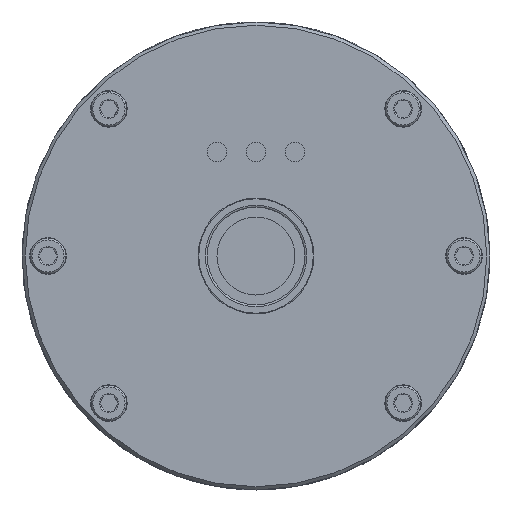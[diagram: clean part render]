
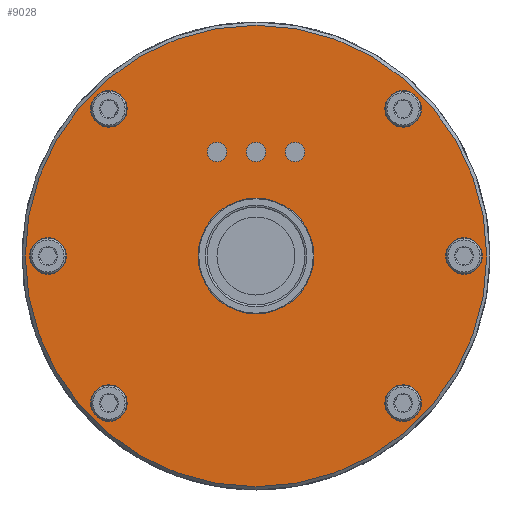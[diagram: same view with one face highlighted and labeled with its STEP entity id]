
A CAD part, front view. The second image highlights one B-rep face of the part: STEP entity #9028.
In plain terms, the highlighted planar face has unit normal (0, -1, 0).
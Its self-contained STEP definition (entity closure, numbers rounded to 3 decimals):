
#1879=FACE_BOUND('',#3244,.T.);
#1880=FACE_BOUND('',#3245,.T.);
#1881=FACE_BOUND('',#3246,.T.);
#1882=FACE_BOUND('',#3247,.T.);
#1883=FACE_BOUND('',#3248,.T.);
#1884=FACE_BOUND('',#3249,.T.);
#1885=FACE_BOUND('',#3250,.T.);
#1886=FACE_BOUND('',#3251,.T.);
#1887=FACE_BOUND('',#3252,.T.);
#1888=FACE_BOUND('',#3253,.T.);
#2059=PLANE('',#9918);
#2593=FACE_OUTER_BOUND('',#3243,.T.);
#3243=EDGE_LOOP('',(#8296));
#3244=EDGE_LOOP('',(#8297));
#3245=EDGE_LOOP('',(#8298));
#3246=EDGE_LOOP('',(#8299));
#3247=EDGE_LOOP('',(#8300));
#3248=EDGE_LOOP('',(#8301));
#3249=EDGE_LOOP('',(#8302));
#3250=EDGE_LOOP('',(#8303));
#3251=EDGE_LOOP('',(#8304));
#3252=EDGE_LOOP('',(#8305));
#3253=EDGE_LOOP('',(#8306));
#3640=CIRCLE('',#9894,1.5);
#3641=CIRCLE('',#9896,1.5);
#3642=CIRCLE('',#9898,1.5);
#3643=CIRCLE('',#9900,2.8);
#3644=CIRCLE('',#9902,2.8);
#3645=CIRCLE('',#9904,2.8);
#3646=CIRCLE('',#9906,2.8);
#3647=CIRCLE('',#9908,2.8);
#3648=CIRCLE('',#9910,2.8);
#3649=CIRCLE('',#9912,8.9);
#3653=CIRCLE('',#9919,35.5);
#4481=VERTEX_POINT('',#28480);
#4482=VERTEX_POINT('',#28484);
#4483=VERTEX_POINT('',#28488);
#4484=VERTEX_POINT('',#28492);
#4485=VERTEX_POINT('',#28496);
#4486=VERTEX_POINT('',#28500);
#4487=VERTEX_POINT('',#28504);
#4488=VERTEX_POINT('',#28508);
#4489=VERTEX_POINT('',#28512);
#4490=VERTEX_POINT('',#28516);
#4494=VERTEX_POINT('',#28529);
#5743=EDGE_CURVE('',#4481,#4481,#3640,.T.);
#5745=EDGE_CURVE('',#4482,#4482,#3641,.T.);
#5747=EDGE_CURVE('',#4483,#4483,#3642,.T.);
#5749=EDGE_CURVE('',#4484,#4484,#3643,.T.);
#5751=EDGE_CURVE('',#4485,#4485,#3644,.T.);
#5753=EDGE_CURVE('',#4486,#4486,#3645,.T.);
#5755=EDGE_CURVE('',#4487,#4487,#3646,.T.);
#5757=EDGE_CURVE('',#4488,#4488,#3647,.T.);
#5759=EDGE_CURVE('',#4489,#4489,#3648,.T.);
#5761=EDGE_CURVE('',#4490,#4490,#3649,.T.);
#5767=EDGE_CURVE('',#4494,#4494,#3653,.T.);
#8296=ORIENTED_EDGE('',*,*,#5767,.F.);
#8297=ORIENTED_EDGE('',*,*,#5761,.T.);
#8298=ORIENTED_EDGE('',*,*,#5743,.T.);
#8299=ORIENTED_EDGE('',*,*,#5745,.T.);
#8300=ORIENTED_EDGE('',*,*,#5747,.T.);
#8301=ORIENTED_EDGE('',*,*,#5749,.T.);
#8302=ORIENTED_EDGE('',*,*,#5751,.T.);
#8303=ORIENTED_EDGE('',*,*,#5753,.T.);
#8304=ORIENTED_EDGE('',*,*,#5755,.T.);
#8305=ORIENTED_EDGE('',*,*,#5757,.T.);
#8306=ORIENTED_EDGE('',*,*,#5759,.T.);
#9028=ADVANCED_FACE('',(#2593,#1879,#1880,#1881,#1882,#1883,#1884,#1885,
#1886,#1887,#1888),#2059,.T.);
#9894=AXIS2_PLACEMENT_3D('',#28481,#12001,#12002);
#9896=AXIS2_PLACEMENT_3D('',#28485,#12006,#12007);
#9898=AXIS2_PLACEMENT_3D('',#28489,#12011,#12012);
#9900=AXIS2_PLACEMENT_3D('',#28493,#12016,#12017);
#9902=AXIS2_PLACEMENT_3D('',#28497,#12021,#12022);
#9904=AXIS2_PLACEMENT_3D('',#28501,#12026,#12027);
#9906=AXIS2_PLACEMENT_3D('',#28505,#12031,#12032);
#9908=AXIS2_PLACEMENT_3D('',#28509,#12036,#12037);
#9910=AXIS2_PLACEMENT_3D('',#28513,#12041,#12042);
#9912=AXIS2_PLACEMENT_3D('',#28517,#12046,#12047);
#9918=AXIS2_PLACEMENT_3D('',#28528,#12060,#12061);
#9919=AXIS2_PLACEMENT_3D('',#28530,#12062,#12063);
#12001=DIRECTION('center_axis',(0.,1.,0.));
#12002=DIRECTION('ref_axis',(1.,0.,0.));
#12006=DIRECTION('center_axis',(0.,1.,0.));
#12007=DIRECTION('ref_axis',(1.,0.,0.));
#12011=DIRECTION('center_axis',(0.,1.,0.));
#12012=DIRECTION('ref_axis',(1.,0.,0.));
#12016=DIRECTION('center_axis',(0.,1.,0.));
#12017=DIRECTION('ref_axis',(1.,0.,0.));
#12021=DIRECTION('center_axis',(0.,1.,0.));
#12022=DIRECTION('ref_axis',(1.,0.,0.));
#12026=DIRECTION('center_axis',(0.,1.,0.));
#12027=DIRECTION('ref_axis',(1.,0.,0.));
#12031=DIRECTION('center_axis',(0.,1.,0.));
#12032=DIRECTION('ref_axis',(1.,0.,0.));
#12036=DIRECTION('center_axis',(0.,1.,0.));
#12037=DIRECTION('ref_axis',(1.,0.,0.));
#12041=DIRECTION('center_axis',(0.,1.,0.));
#12042=DIRECTION('ref_axis',(1.,0.,0.));
#12046=DIRECTION('center_axis',(0.,1.,0.));
#12047=DIRECTION('ref_axis',(0.,0.,
1.));
#12060=DIRECTION('center_axis',(0.,-1.,0.));
#12061=DIRECTION('ref_axis',(0.,0.,
1.));
#12062=DIRECTION('center_axis',(0.,1.,0.));
#12063=DIRECTION('ref_axis',(0.,0.,
1.));
#28480=CARTESIAN_POINT('',(-7.513,-121.,16.152));
#28481=CARTESIAN_POINT('Origin',(-6.013,-121.,16.152));
#28484=CARTESIAN_POINT('',(-1.513,-121.,16.152));
#28485=CARTESIAN_POINT('Origin',(-0.013,-121.,
16.152));
#28488=CARTESIAN_POINT('',(4.487,-121.,16.152));
#28489=CARTESIAN_POINT('Origin',(5.987,-121.,16.152));
#28492=CARTESIAN_POINT('',(19.814,-121.,-22.475));
#28493=CARTESIAN_POINT('Origin',(22.614,-121.,-22.475));
#28496=CARTESIAN_POINT('',(19.814,-121.,22.78));
#28497=CARTESIAN_POINT('Origin',(22.614,-121.,22.78));
#28500=CARTESIAN_POINT('',(-34.813,-121.,0.152));
#28501=CARTESIAN_POINT('Origin',(-32.013,-121.,0.152));
#28504=CARTESIAN_POINT('',(-25.44,-121.,-22.475));
#28505=CARTESIAN_POINT('Origin',(-22.64,-121.,-22.475));
#28508=CARTESIAN_POINT('',(-25.44,-121.,22.78));
#28509=CARTESIAN_POINT('Origin',(-22.64,-121.,22.78));
#28512=CARTESIAN_POINT('',(29.187,-121.,0.152));
#28513=CARTESIAN_POINT('Origin',(31.987,-121.,0.152));
#28516=CARTESIAN_POINT('',(-0.013,-121.,-8.748));
#28517=CARTESIAN_POINT('Origin',(-0.013,-121.,
0.152));
#28528=CARTESIAN_POINT('Origin',(-0.013,-121.,
0.152));
#28529=CARTESIAN_POINT('',(-0.013,-121.,-35.348));
#28530=CARTESIAN_POINT('Origin',(-0.013,-121.,
0.152));
